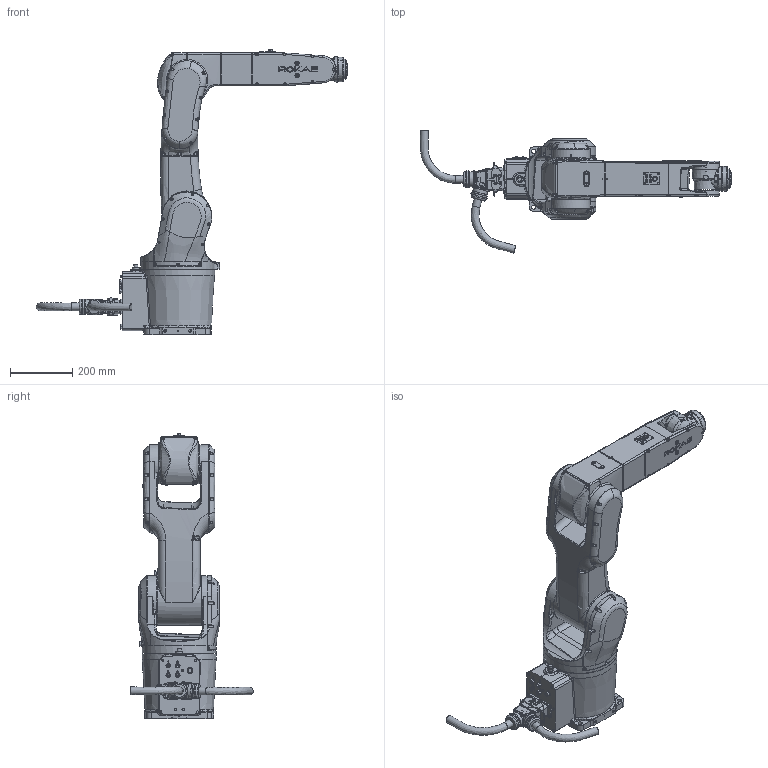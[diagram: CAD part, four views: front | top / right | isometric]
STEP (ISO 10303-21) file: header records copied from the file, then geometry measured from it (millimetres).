
FILE_DESCRIPTION(/* description */ (''),/* implementation_level */ '2;1');
FILE_NAME(/* name */ 'NB10s-1009 简化模型A.stp',/* time_stamp */ '2025-04-30T16:58:13+08:00',/* author */ (''),/* organization */ (''),/* preprocessor_version */ 'ST-DEVELOPER v16',/* originating_system */ 'SIEMENS PLM Software NX 10.0',/* authorisation */ '');
FILE_SCHEMA (('CONFIG_CONTROL_DESIGN'));
Products named in the file (10): NB10-logo; NB10-3Dwork-B; NB10-yao-A; NB10-xiaobihou-A; NB10-shuchu-A; NB10-shouwan-A; NB10-dabi-B; NB10-base-A; NB10-xiaobiqian-B_MODEL; NB10s-1009
Assembly tree (10 placements, depth 3):
  NB10s-1009
    NB10-base-A
    NB10-dabi-B
    NB10-shouwan-A
    NB10-shuchu-A
    NB10-xiaobihou-A
    NB10-xiaobiqian-B_MODEL
      NB10-logo  x2
    NB10-yao-A
    NB10-3Dwork-B
Bounding box: 1003.62 x 394.43 x 919.15 mm (x, y, z)
Volume: 33444102.9 mm3; surface area: 1470408.8 mm2
Topology: 23 solids, 35 shells, 3541 faces, 8451 edges, 5118 vertices
Faces by surface type: plane 1177, cylinder 884, bspline 720, torus 284, cone 279, extrusion 163, sphere 34
Full cylindrical faces by diameter (mm): 3.3 x8, 4.2 x12, 4.75 x4, 4.826 x1, 5 x3, 5.1 x4, 5.13 x8, 5.5 x83, 6 x2, 6.725 x4, 7 x21, 8.5 x10, 9.5 x3, 13 x1, 13.5 x4, 14 x1, 15 x6, 18.5 x1, 20 x1, 22 x1, 25 x2, 40 x1, 41.226 x2, 47.5 x2, 49.55 x4, 50 x2, 55 x2, 59 x2, 65 x1, 68 x1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
Entity records: 138444 total; most frequent: CARTESIAN_POINT 65464, ORIENTED_EDGE 15384, DIRECTION 13646, EDGE_CURVE 7692, AXIS2_PLACEMENT_3D 5461, VERTEX_POINT 4844, EDGE_LOOP 4042, ADVANCED_FACE 3470
